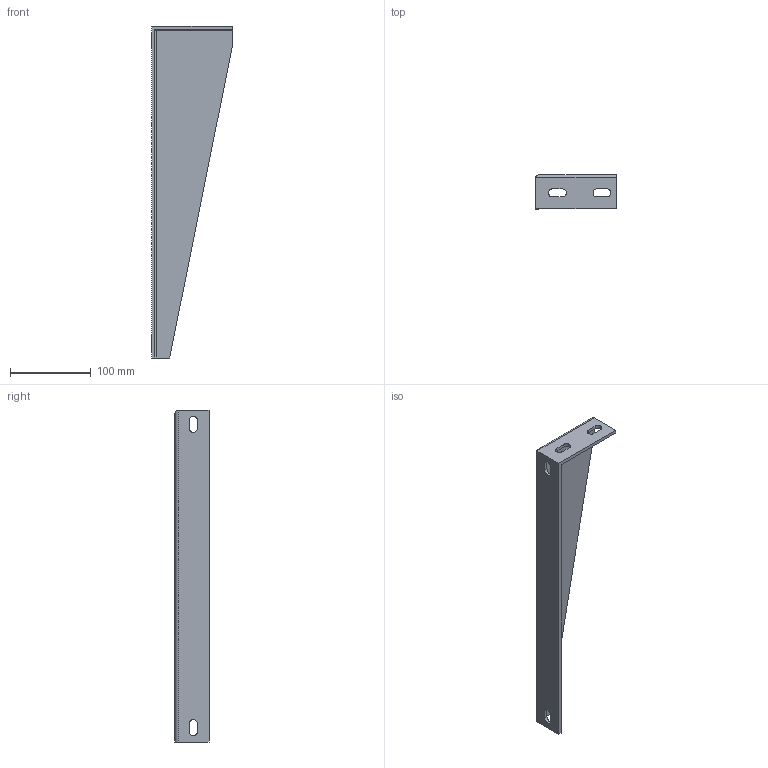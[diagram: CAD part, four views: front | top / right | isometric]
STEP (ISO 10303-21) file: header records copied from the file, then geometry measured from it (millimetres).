
FILE_DESCRIPTION((''),'2;1');
FILE_NAME('SUM410DS','2002-12-27T',('Lipro doo'),('Lipro d.o.o.'),'PRO/ENGINEER BY PARAMETRIC TECHNOLOGY CORPORATION, 2001150','PRO/ENGINEER BY PARAMETRIC TECHNOLOGY CORPORATION, 2001150','');
FILE_SCHEMA(('CONFIG_CONTROL_DESIGN'));
Length unit declared in the file: millimetre
Products named in the file (1): SUM410DS
Bounding box: 100 x 42 x 410 mm (x, y, z)
Volume: 176750.5 mm3; surface area: 92677.7 mm2
Topology: 1 solids, 1 shells, 30 faces, 82 edges, 54 vertices
Faces by surface type: plane 18, cylinder 12
Entity records: 1017 total; most frequent: CARTESIAN_POINT 183, ORIENTED_EDGE 164, DIRECTION 160, EDGE_CURVE 82, VECTOR 60, LINE 60, VERTEX_POINT 54, AXIS2_PLACEMENT_3D 50
